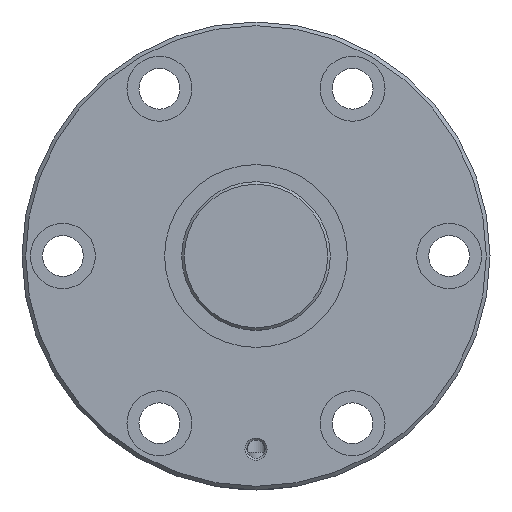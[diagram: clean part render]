
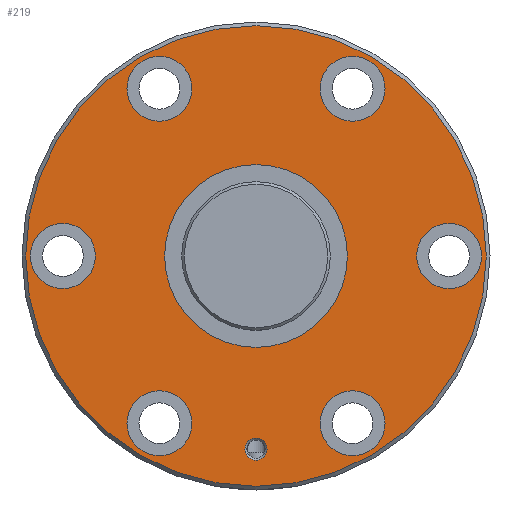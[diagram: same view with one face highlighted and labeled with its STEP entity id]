
A CAD part, left-side view. The second image highlights one B-rep face of the part: STEP entity #219.
In plain terms, the highlighted planar face has unit normal (-1, 0, 0).
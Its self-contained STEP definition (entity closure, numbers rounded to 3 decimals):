
#219 = ADVANCED_FACE( '', ( #390, #391, #392, #393, #394, #395, #396, #397, #398 ), #399, .T. );
#390 = FACE_BOUND( '', #629, .T. );
#391 = FACE_BOUND( '', #630, .T. );
#392 = FACE_BOUND( '', #631, .T. );
#393 = FACE_BOUND( '', #632, .T. );
#394 = FACE_BOUND( '', #633, .T. );
#395 = FACE_BOUND( '', #634, .T. );
#396 = FACE_BOUND( '', #635, .T. );
#397 = FACE_BOUND( '', #636, .T. );
#398 = FACE_OUTER_BOUND( '', #637, .T. );
#399 = PLANE( '', #638 );
#629 = EDGE_LOOP( '', ( #1059 ) );
#630 = EDGE_LOOP( '', ( #1060 ) );
#631 = EDGE_LOOP( '', ( #1061 ) );
#632 = EDGE_LOOP( '', ( #1062 ) );
#633 = EDGE_LOOP( '', ( #1063 ) );
#634 = EDGE_LOOP( '', ( #1064 ) );
#635 = EDGE_LOOP( '', ( #1065 ) );
#636 = EDGE_LOOP( '', ( #1066 ) );
#637 = EDGE_LOOP( '', ( #1067 ) );
#638 = AXIS2_PLACEMENT_3D( '', #1068, #1069, #1070 );
#1059 = ORIENTED_EDGE( '', *, *, #1342, .T. );
#1060 = ORIENTED_EDGE( '', *, *, #1343, .T. );
#1061 = ORIENTED_EDGE( '', *, *, #1265, .T. );
#1062 = ORIENTED_EDGE( '', *, *, #1341, .T. );
#1063 = ORIENTED_EDGE( '', *, *, #1344, .T. );
#1064 = ORIENTED_EDGE( '', *, *, #1345, .T. );
#1065 = ORIENTED_EDGE( '', *, *, #1346, .T. );
#1066 = ORIENTED_EDGE( '', *, *, #1347, .T. );
#1067 = ORIENTED_EDGE( '', *, *, #1348, .F. );
#1068 = CARTESIAN_POINT( '', ( 0., 62., 0. ) );
#1069 = DIRECTION( '', ( -1., 0., 0. ) );
#1070 = DIRECTION( '', ( 0., 0., 1. ) );
#1265 = EDGE_CURVE( '', #1419, #1419, #1420, .T. );
#1341 = EDGE_CURVE( '', #1549, #1549, #1550, .T. );
#1342 = EDGE_CURVE( '', #1551, #1551, #1552, .T. );
#1343 = EDGE_CURVE( '', #1553, #1553, #1554, .F. );
#1344 = EDGE_CURVE( '', #1555, #1555, #1556, .T. );
#1345 = EDGE_CURVE( '', #1557, #1557, #1558, .T. );
#1346 = EDGE_CURVE( '', #1559, #1559, #1560, .T. );
#1347 = EDGE_CURVE( '', #1561, #1561, #1562, .T. );
#1348 = EDGE_CURVE( '', #1563, #1563, #1564, .T. );
#1419 = VERTEX_POINT( '', #1778 );
#1420 = CIRCLE( '', #1779, 3. );
#1549 = VERTEX_POINT( '', #2200 );
#1550 = CIRCLE( '', #2201, 8.75 );
#1551 = VERTEX_POINT( '', #2202 );
#1552 = CIRCLE( '', #2203, 24.6 );
#1553 = VERTEX_POINT( '', #2204 );
#1554 = CIRCLE( '', #2205, 8.75 );
#1555 = VERTEX_POINT( '', #2206 );
#1556 = CIRCLE( '', #2207, 8.75 );
#1557 = VERTEX_POINT( '', #2208 );
#1558 = CIRCLE( '', #2209, 8.75 );
#1559 = VERTEX_POINT( '', #2210 );
#1560 = CIRCLE( '', #2211, 8.75 );
#1561 = VERTEX_POINT( '', #2212 );
#1562 = CIRCLE( '', #2213, 8.75 );
#1563 = VERTEX_POINT( '', #2214 );
#1564 = CIRCLE( '', #2215, 62. );
#1778 = CARTESIAN_POINT( '', ( 0., 0., -55. ) );
#1779 = AXIS2_PLACEMENT_3D( '', #2377, #2378, #2379 );
#2200 = CARTESIAN_POINT( '', ( 0., 26., 36.283 ) );
#2201 = AXIS2_PLACEMENT_3D( '', #2529, #2530, #2531 );
#2202 = CARTESIAN_POINT( '', ( 0., 0., -24.6 ) );
#2203 = AXIS2_PLACEMENT_3D( '', #2532, #2533, #2534 );
#2204 = CARTESIAN_POINT( '', ( 0., 52., 8.75 ) );
#2205 = AXIS2_PLACEMENT_3D( '', #2535, #2536, #2537 );
#2206 = CARTESIAN_POINT( '', ( 0., -26., -53.783 ) );
#2207 = AXIS2_PLACEMENT_3D( '', #2538, #2539, #2540 );
#2208 = CARTESIAN_POINT( '', ( 0., -26., 36.283 ) );
#2209 = AXIS2_PLACEMENT_3D( '', #2541, #2542, #2543 );
#2210 = CARTESIAN_POINT( '', ( 0., 26., -53.783 ) );
#2211 = AXIS2_PLACEMENT_3D( '', #2544, #2545, #2546 );
#2212 = CARTESIAN_POINT( '', ( 0., -52., -8.75 ) );
#2213 = AXIS2_PLACEMENT_3D( '', #2547, #2548, #2549 );
#2214 = CARTESIAN_POINT( '', ( 0., 0., -62. ) );
#2215 = AXIS2_PLACEMENT_3D( '', #2550, #2551, #2552 );
#2377 = CARTESIAN_POINT( '', ( 0., 0., -52. ) );
#2378 = DIRECTION( '', ( 1., 0., 0. ) );
#2379 = DIRECTION( '', ( 0., 0., -1. ) );
#2529 = CARTESIAN_POINT( '', ( 0., 26., 45.033 ) );
#2530 = DIRECTION( '', ( 1., 0., 0. ) );
#2531 = DIRECTION( '', ( 0., 0., -1. ) );
#2532 = CARTESIAN_POINT( '', ( 0., 0., 0. ) );
#2533 = DIRECTION( '', ( 1., 0., 0. ) );
#2534 = DIRECTION( '', ( 0., 0., -1. ) );
#2535 = CARTESIAN_POINT( '', ( 0., 52., 0. ) );
#2536 = DIRECTION( '', ( -1., 0., 0. ) );
#2537 = DIRECTION( '', ( 0., 0., 1. ) );
#2538 = CARTESIAN_POINT( '', ( 0., -26., -45.033 ) );
#2539 = DIRECTION( '', ( 1., 0., 0. ) );
#2540 = DIRECTION( '', ( 0., 0., -1. ) );
#2541 = CARTESIAN_POINT( '', ( 0., -26., 45.033 ) );
#2542 = DIRECTION( '', ( 1., 0., 0. ) );
#2543 = DIRECTION( '', ( 0., 0., -1. ) );
#2544 = CARTESIAN_POINT( '', ( 0., 26., -45.033 ) );
#2545 = DIRECTION( '', ( 1., 0., 0. ) );
#2546 = DIRECTION( '', ( 0., 0., -1. ) );
#2547 = CARTESIAN_POINT( '', ( 0., -52., 0. ) );
#2548 = DIRECTION( '', ( 1., 0., 0. ) );
#2549 = DIRECTION( '', ( 0., 0., -1. ) );
#2550 = CARTESIAN_POINT( '', ( 0., 0., 0. ) );
#2551 = DIRECTION( '', ( 1., 0., 0. ) );
#2552 = DIRECTION( '', ( 0., 0., -1. ) );
